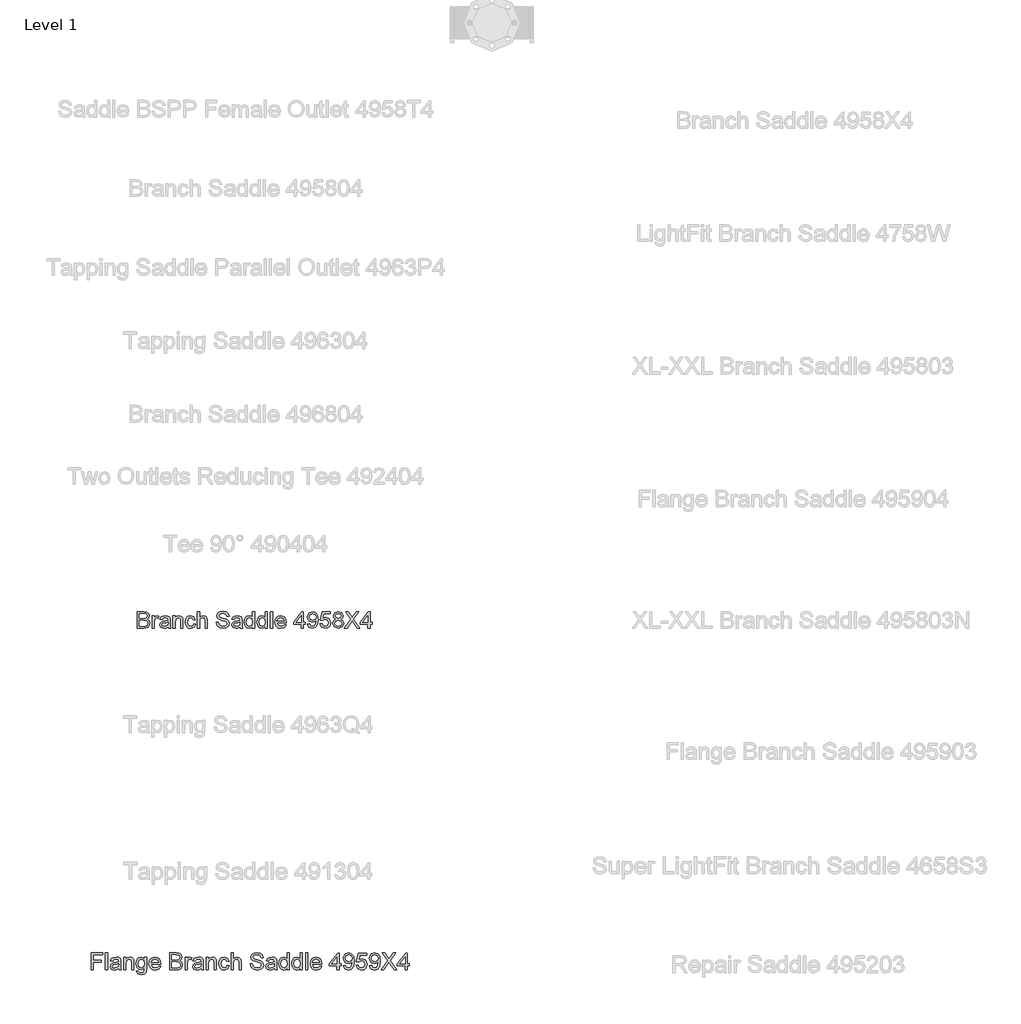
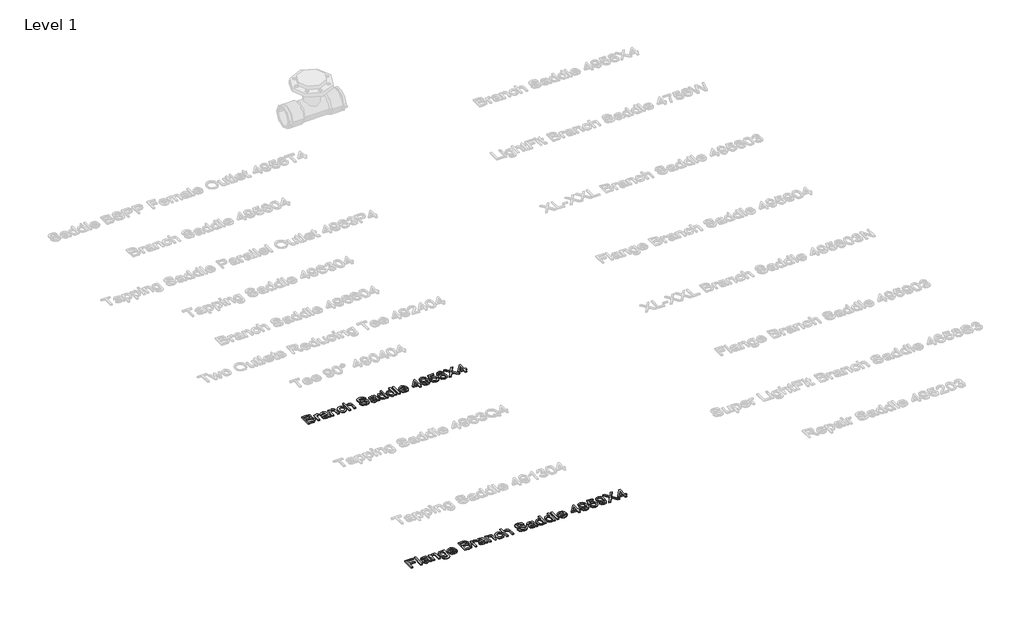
# One storey, part 4 of 41: 2 proxies.
"""IFC4 building model written with IfcOpenShell, lengths in millimetres."""

from ifc_helpers import new_model, si_unit, origin, origin_with_axes, place, context, project, spatial, polyline, outline, extrude, element, save

model = new_model("IFC4")

# Units and contexts
model_context = context("Model", 3, world=origin())
ifc_project = project(units=[si_unit("LENGTHUNIT", "METRE", prefix="MILLI")], contexts=[model_context])

# Site, building, storey
site = spatial("IfcSite", under=ifc_project)
building = spatial("IfcBuilding", under=site)
storey = spatial("IfcBuildingStorey", under=building, Name="Level 1", Elevation=0.0)

# Proxies
placement = place(None, origin())
element("IfcBuildingElementProxy", 1, Name="100 mm Arial", ObjectType="100 mm Arial", at=placement, inside=storey, context=model_context, shape_type="SweptSolid", body=[
    extrude(outline(polyline([(6675.9808456, 2827.5779735), (6675.9808456, 2886.6548966), (6698.5241149, 2886.6548966), (6709.5649803, 2884.9169158), (6716.084211, 2879.5731658), (6718.4423841, 2872.0154735), (6716.459211, 2865.1140312), (6710.4664226, 2859.8856658), (6717.7428649, 2854.3760505), (6720.288538, 2845.1885505), (6718.5505572, 2837.2486466), (6714.2452687, 2831.5948005), (6707.819788, 2828.5948005), (6698.351038, 2827.5779735), (6675.9808456, 2827.5779735)]), holes=[polyline([(6683.365461, 2834.9625889), (6698.5096918, 2834.9625889), (6703.990461, 2835.2510505), (6708.6274803, 2836.8592235), (6711.6995956, 2840.1404735), (6712.9039226, 2845.1164351), (6711.490461, 2850.8568197), (6706.9111341, 2854.2823005), (6697.788538, 2855.2702812), (6683.365461, 2855.2702812), (6683.365461, 2834.9625889)]), polyline([(6683.365461, 2862.6548966), (6696.851038, 2862.6548966), (6704.726038, 2863.289512), (6709.4640187, 2866.0226851), (6711.0577687, 2870.8327812), (6709.5721918, 2875.6500889), (6705.3173841, 2878.4986466), (6695.8269995, 2879.2702812), (6683.365461, 2879.2702812), (6683.365461, 2862.6548966)])]), origin_with_axes(), (0.0, 0.0, 1.0), 5.0),
    extrude(outline(polyline([(6729.5193072, 2827.5779735), (6729.5193072, 2870.9625889), (6735.9808456, 2870.9625889), (6735.9808456, 2864.5443197), (6740.5673841, 2870.4577812), (6745.1827687, 2871.8856658), (6752.5962303, 2869.6068197), (6750.1298841, 2862.9866274), (6744.9375764, 2864.5010505), (6740.7620956, 2863.0443197), (6738.101038, 2859.0058582), (6736.9039226, 2850.3808582), (6736.9039226, 2827.5779735), (6729.5193072, 2827.5779735)])), origin_with_axes(), (0.0, 0.0, 1.0), 5.0),
    extrude(outline(polyline([(6784.9039226, 2833.1164351), (6777.7428649, 2828.1116274), (6769.8318072, 2826.6548966), (6759.1082495, 2830.1597043), (6755.365461, 2839.1164351), (6756.7789226, 2844.9577812), (6760.4928649, 2849.1981658), (6765.663538, 2851.6212428), (6772.052961, 2852.7318197), (6784.8606533, 2855.2702812), (6784.9039226, 2856.914512), (6782.8702687, 2862.3664351), (6774.7068072, 2864.5010505), (6767.2356533, 2863.0803774), (6763.6731533, 2858.039512), (6756.288538, 2858.9625889), (6759.4832495, 2866.1741274), (6765.9159418, 2870.4000889), (6775.6587303, 2871.8856658), (6784.6082495, 2870.5731658), (6789.663538, 2867.2774928), (6791.927961, 2862.2654735), (6792.288538, 2855.8039351), (6792.288538, 2846.6164351), (6792.663538, 2833.7871082), (6794.1346918, 2827.5779735), (6786.7500764, 2827.5779735), (6784.9039226, 2833.1164351)]), holes=[polyline([(6784.9039226, 2847.8856658), (6772.990461, 2845.6212428), (6766.6370956, 2844.4241274), (6763.7596918, 2842.477012), (6762.7500764, 2839.6356658), (6764.9495956, 2835.6404735), (6771.4039226, 2834.039512), (6778.8750764, 2835.8063389), (6783.6923841, 2840.0827812), (6784.8606533, 2845.7943197), (6784.9039226, 2847.8856658)])]), origin_with_axes(), (0.0, 0.0, 1.0), 5.0),
    extrude(outline(polyline([(6802.4423841, 2827.5779735), (6802.4423841, 2870.9625889), (6809.8269995, 2870.9625889), (6809.8269995, 2864.9048966), (6815.4736341, 2870.1404735), (6823.1827687, 2871.8856658), (6830.1563264, 2870.4794158), (6834.9159418, 2866.7871082), (6837.1298841, 2861.3568197), (6837.5193072, 2854.2173966), (6837.5193072, 2827.5779735), (6830.1346918, 2827.5779735), (6830.1346918, 2853.2222043), (6829.2837303, 2859.7558582), (6826.2765187, 2863.2101851), (6821.2068072, 2864.5010505), (6813.194788, 2861.602012), (6809.8269995, 2850.5972043), (6809.8269995, 2827.5779735), (6802.4423841, 2827.5779735)])), origin_with_axes(), (0.0, 0.0, 1.0), 5.0),
    extrude(outline(polyline([(6875.365461, 2843.2702812), (6882.7500764, 2842.3472043), (6876.8221918, 2830.8159543), (6865.1106533, 2826.6548966), (6857.2554851, 2828.1062187), (6851.1130572, 2832.4601851), (6847.1485139, 2839.5256899), (6845.8269995, 2849.1116274), (6848.084211, 2861.3784543), (6854.9640187, 2869.2606658), (6865.0096918, 2871.8856658), (6876.2380572, 2868.2798966), (6881.8269995, 2858.039512), (6874.4423841, 2857.1164351), (6871.0169033, 2862.6476851), (6865.0673841, 2864.5010505), (6856.507288, 2860.852012), (6853.2116149, 2849.3135505), (6856.4351726, 2837.6669158), (6864.865461, 2834.039512), (6871.8245956, 2836.3039351), (6875.365461, 2843.2702812)])), origin_with_axes(), (0.0, 0.0, 1.0), 5.0),
    extrude(outline(polyline([(6889.2116149, 2827.5779735), (6889.2116149, 2886.6548966), (6896.5962303, 2886.6548966), (6896.5962303, 2864.9337428), (6902.3546437, 2870.1476851), (6909.4471918, 2871.8856658), (6917.740461, 2869.9890312), (6922.7741149, 2864.7462428), (6924.288538, 2855.039512), (6924.288538, 2827.5779735), (6916.9039226, 2827.5779735), (6916.9039226, 2854.2750889), (6914.552961, 2862.0635505), (6907.8894995, 2864.5010505), (6901.8390187, 2862.8568197), (6897.8005572, 2858.4000889), (6896.5962303, 2850.6260505), (6896.5962303, 2827.5779735), (6889.2116149, 2827.5779735)])), origin_with_axes(), (0.0, 0.0, 1.0), 5.0),
    extrude(outline(polyline([(6955.6731533, 2847.8856658), (6963.0577687, 2847.8856658), (6965.4375764, 2840.4938389), (6971.2500764, 2835.820762), (6980.1058456, 2834.039512), (6987.8221918, 2835.3880697), (6992.8053649, 2839.0948005), (6994.4423841, 2844.0491274), (6993.2164226, 2848.6573005), (6988.1971918, 2852.0106658), (6977.444788, 2854.8303774), (6965.8702687, 2858.4722043), (6959.5890187, 2863.9673966), (6957.5193072, 2871.3087428), (6960.0794033, 2879.6669158), (6967.5577687, 2885.5659543), (6978.5048841, 2887.5779735), (6990.1875764, 2885.4722043), (6997.976038, 2879.2847043), (7000.9039226, 2870.039512), (6993.5193072, 2870.039512), (6989.3366149, 2877.6260505), (6978.7933456, 2880.1933582), (6968.2212303, 2877.6548966), (6964.9039226, 2871.5250889), (6967.2548841, 2866.4048966), (6979.3125764, 2862.2798966), (6992.3798841, 2858.5731658), (6999.5265187, 2852.5875889), (7001.8269995, 2844.2366274), (6999.1803649, 2835.4024928), (6991.5649803, 2828.9553774), (6980.3943072, 2826.6548966), (6967.2044033, 2829.1356658), (6958.8606533, 2836.6068197), (6955.6731533, 2847.8856658)])), origin_with_axes(), (0.0, 0.0, 1.0), 5.0),
    extrude(outline(polyline([(7039.6731533, 2833.1164351), (7032.5120956, 2828.1116274), (7024.601038, 2826.6548966), (7013.8774803, 2830.1597043), (7010.1346918, 2839.1164351), (7011.5481533, 2844.9577812), (7015.2620956, 2849.1981658), (7020.4327687, 2851.6212428), (7026.8221918, 2852.7318197), (7039.6298841, 2855.2702812), (7039.6731533, 2856.914512), (7037.6394995, 2862.3664351), (7029.476038, 2864.5010505), (7022.0048841, 2863.0803774), (7018.4423841, 2858.039512), (7011.0577687, 2858.9625889), (7014.2524803, 2866.1741274), (7020.6851726, 2870.4000889), (7030.427961, 2871.8856658), (7039.3774803, 2870.5731658), (7044.4327687, 2867.2774928), (7046.6971918, 2862.2654735), (7047.0577687, 2855.8039351), (7047.0577687, 2846.6164351), (7047.4327687, 2833.7871082), (7048.9039226, 2827.5779735), (7041.5193072, 2827.5779735), (7039.6731533, 2833.1164351)]), holes=[polyline([(7039.6731533, 2847.8856658), (7027.7596918, 2845.6212428), (7021.4063264, 2844.4241274), (7018.5289226, 2842.477012), (7017.5193072, 2839.6356658), (7019.7188264, 2835.6404735), (7026.1731533, 2834.039512), (7033.6443072, 2835.8063389), (7038.4616149, 2840.0827812), (7039.6298841, 2845.7943197), (7039.6731533, 2847.8856658)])]), origin_with_axes(), (0.0, 0.0, 1.0), 5.0),
    extrude(outline(polyline([(7083.9808456, 2827.5779735), (7083.9808456, 2834.5443197), (7079.0950283, 2828.6272524), (7072.3414226, 2826.6548966), (7063.1971918, 2829.5106658), (7056.7356533, 2837.4794158), (7054.4423841, 2849.227012), (7056.5553649, 2860.9818197), (7062.8870956, 2869.0731658), (7072.3125764, 2871.8856658), (7079.1202687, 2869.8736466), (7083.9808456, 2864.6452812), (7083.9808456, 2886.6548966), (7091.365461, 2886.6548966), (7091.365461, 2827.5779735), (7083.9808456, 2827.5779735)]), holes=[polyline([(7061.8269995, 2849.2558582), (7065.1587303, 2837.8255697), (7073.0193072, 2834.039512), (7080.7861341, 2837.6524928), (7083.9808456, 2848.6933582), (7080.7284418, 2860.6789351), (7072.7164226, 2864.5010505), (7064.9423841, 2860.8303774), (7061.8269995, 2849.2558582)])]), origin_with_axes(), (0.0, 0.0, 1.0), 5.0),
    extrude(outline(polyline([(7129.2116149, 2827.5779735), (7129.2116149, 2834.5443197), (7124.3257976, 2828.6272524), (7117.5721918, 2826.6548966), (7108.427961, 2829.5106658), (7101.9664226, 2837.4794158), (7099.6731533, 2849.227012), (7101.7861341, 2860.9818197), (7108.1178649, 2869.0731658), (7117.5433456, 2871.8856658), (7124.351038, 2869.8736466), (7129.2116149, 2864.6452812), (7129.2116149, 2886.6548966), (7136.5962303, 2886.6548966), (7136.5962303, 2827.5779735), (7129.2116149, 2827.5779735)]), holes=[polyline([(7107.0577687, 2849.2558582), (7110.3894995, 2837.8255697), (7118.2500764, 2834.039512), (7126.0169033, 2837.6524928), (7129.2116149, 2848.6933582), (7125.959211, 2860.6789351), (7117.9471918, 2864.5010505), (7110.1731533, 2860.8303774), (7107.0577687, 2849.2558582)])]), origin_with_axes(), (0.0, 0.0, 1.0), 5.0),
    extrude(outline(polyline([(7147.6731533, 2827.5779735), (7147.6731533, 2886.6548966), (7155.0577687, 2886.6548966), (7155.0577687, 2827.5779735), (7147.6731533, 2827.5779735)])), origin_with_axes(), (0.0, 0.0, 1.0), 5.0),
    extrude(outline(polyline([(7196.5096918, 2840.5010505), (7203.7500764, 2839.5779735), (7196.9784418, 2830.0443197), (7184.365461, 2826.6548966), (7175.7007976, 2828.117036), (7169.0337303, 2832.5034543), (7164.7825283, 2839.5292957), (7163.365461, 2848.9097043), (7164.7969514, 2858.6056178), (7169.0914226, 2865.8568197), (7175.6683456, 2870.3784543), (7183.9471918, 2871.8856658), (7191.9682255, 2870.3820601), (7198.3774803, 2865.8712428), (7202.5800043, 2858.6344639), (7203.9808456, 2848.9529735), (7203.9375764, 2846.9625889), (7170.7500764, 2846.9625889), (7174.9976726, 2837.3712428), (7184.5096918, 2834.039512), (7191.7500764, 2835.5827812), (7196.5096918, 2840.5010505)]), holes=[polyline([(7170.7500764, 2854.3472043), (7196.5962303, 2854.3472043), (7193.6394995, 2861.039512), (7183.9183456, 2864.5010505), (7174.8245956, 2861.7390312), (7170.7500764, 2854.3472043)])]), origin_with_axes(), (0.0, 0.0, 1.0), 5.0),
    extrude(outline(polyline([(7256.5962303, 2827.5779735), (7256.5962303, 2841.4241274), (7229.8269995, 2841.4241274), (7229.8269995, 2848.8087428), (7258.4423841, 2885.7318197), (7263.9808456, 2885.7318197), (7263.9808456, 2848.8087428), (7271.365461, 2848.8087428), (7271.365461, 2841.4241274), (7263.9808456, 2841.4241274), (7263.9808456, 2827.5779735), (7256.5962303, 2827.5779735)]), holes=[polyline([(7256.5962303, 2848.8087428), (7256.5962303, 2871.6260505), (7238.913538, 2848.8087428), (7256.5962303, 2848.8087428)])]), origin_with_axes(), (0.0, 0.0, 1.0), 5.0),
    extrude(outline(polyline([(7278.7500764, 2842.3472043), (7286.1346918, 2843.2702812), (7289.4519995, 2836.2246082), (7295.740461, 2834.039512), (7301.7188264, 2835.445762), (7305.771711, 2839.2029735), (7308.1875764, 2845.6212428), (7309.2548841, 2854.1885505), (7303.3053649, 2850.0347043), (7295.2068072, 2847.8856658), (7282.8678649, 2853.1356658), (7277.8269995, 2866.9673966), (7283.1130572, 2881.2462428), (7296.3606533, 2886.6548966), (7306.882288, 2883.5683582), (7314.1226726, 2874.7702812), (7316.5962303, 2858.2414351), (7314.1298841, 2840.3063389), (7306.7957495, 2830.1452812), (7295.3943072, 2826.6548966), (7284.0433456, 2830.7726851), (7278.7500764, 2842.3472043)]), holes=[polyline([(7309.2116149, 2867.1404735), (7306.0241149, 2875.9962428), (7297.5577687, 2879.2702812), (7288.6731533, 2875.7438389), (7285.2116149, 2866.6068197), (7288.4856533, 2858.4217235), (7297.3558456, 2855.2702812), (7305.8726726, 2858.4217235), (7309.2116149, 2867.1404735)])]), origin_with_axes(), (0.0, 0.0, 1.0), 5.0),
    extrude(outline(polyline([(7323.0577687, 2843.2702812), (7330.4423841, 2844.1933582), (7334.163538, 2836.5851851), (7341.8798841, 2834.039512), (7351.1394995, 2837.5803774), (7354.4423841, 2846.977012), (7351.3486341, 2855.7462428), (7341.9952687, 2858.9625889), (7335.5120956, 2857.6789351), (7331.365461, 2854.3472043), (7323.9808456, 2855.2702812), (7330.4423841, 2885.7318197), (7359.0577687, 2885.7318197), (7359.0577687, 2878.3472043), (7336.413538, 2878.3472043), (7333.2548841, 2862.0779735), (7344.0577687, 2866.3472043), (7356.6851726, 2861.0539351), (7361.8269995, 2847.4385505), (7357.1971918, 2833.7366274), (7350.5481533, 2828.4253293), (7341.851038, 2826.6548966), (7328.819788, 2831.2053774), (7323.0577687, 2843.2702812)])), origin_with_axes(), (0.0, 0.0, 1.0), 5.0),
    extrude(outline(polyline([(7379.0481533, 2860.1164351), (7372.319788, 2864.7029735), (7370.1346918, 2871.8423966), (7374.8943072, 2882.3856658), (7387.5721918, 2886.6548966), (7400.365461, 2882.2847043), (7405.2116149, 2871.6404735), (7403.0553649, 2864.6813389), (7396.5144995, 2860.1164351), (7404.3678649, 2854.3255697), (7407.0577687, 2844.7702812), (7401.7212303, 2831.8760505), (7387.6731533, 2826.6548966), (7373.6250764, 2831.8976851), (7368.288538, 2844.9722043), (7371.0866149, 2854.7510505), (7379.0481533, 2860.1164351)]), holes=[polyline([(7377.5193072, 2871.6260505), (7380.1370956, 2865.8279735), (7387.7596918, 2863.5779735), (7395.2308456, 2865.8135505), (7397.8269995, 2871.2943197), (7395.1443072, 2876.9698005), (7387.6731533, 2879.2702812), (7380.1803649, 2877.0202812), (7377.5193072, 2871.6260505)]), polyline([(7375.6731533, 2845.2318197), (7376.9063264, 2839.6717235), (7381.2693072, 2835.5106658), (7387.7308456, 2834.039512), (7396.5289226, 2837.133262), (7399.6731533, 2845.0010505), (7396.427961, 2853.0202812), (7387.4856533, 2856.1933582), (7378.7957495, 2853.0635505), (7375.6731533, 2845.2318197)])]), origin_with_axes(), (0.0, 0.0, 1.0), 5.0),
    extrude(outline(polyline([(7409.8269995, 2827.5779735), (7432.601038, 2859.7702812), (7413.5193072, 2886.6548966), (7422.3750764, 2886.6548966), (7433.1202687, 2871.5250889), (7436.740461, 2865.6260505), (7440.9808456, 2871.6260505), (7451.6106533, 2886.6548966), (7460.5962303, 2886.6548966), (7441.5144995, 2859.6837428), (7464.288538, 2827.5779735), (7455.4327687, 2827.5779735), (7440.2596918, 2848.9818197), (7437.101038, 2853.4241274), (7433.6250764, 2848.5491274), (7418.8125764, 2827.5779735), (7409.8269995, 2827.5779735)])), origin_with_axes(), (0.0, 0.0, 1.0), 5.0),
    extrude(outline(polyline([(7492.9039226, 2827.5779735), (7492.9039226, 2841.4241274), (7466.1346918, 2841.4241274), (7466.1346918, 2848.8087428), (7494.7500764, 2885.7318197), (7500.288538, 2885.7318197), (7500.288538, 2848.8087428), (7507.6731533, 2848.8087428), (7507.6731533, 2841.4241274), (7500.288538, 2841.4241274), (7500.288538, 2827.5779735), (7492.9039226, 2827.5779735)]), holes=[polyline([(7492.9039226, 2848.8087428), (7492.9039226, 2871.6260505), (7475.2212303, 2848.8087428), (7492.9039226, 2848.8087428)])]), origin_with_axes(), (0.0, 0.0, 1.0), 5.0),
])
element("IfcBuildingElementProxy", 2, Name="100 mm Arial", ObjectType="100 mm Arial", at=placement, inside=storey, context=model_context, shape_type="SweptSolid", body=[
    extrude(outline(polyline([(6513.0348295, 1617.5779735), (6513.0348295, 1677.8517596), (6553.5312795, 1677.8517596), (6553.5312795, 1670.3175364), (6520.5690527, 1670.3175364), (6520.5690527, 1652.4237561), (6548.82239, 1652.4237561), (6548.82239, 1644.8895329), (6520.5690527, 1644.8895329), (6520.5690527, 1617.5779735), (6513.0348295, 1617.5779735)])), origin_with_axes(), (0.0, 0.0, 1.0), 5.0),
    extrude(outline(polyline([(6562.9490586, 1617.5779735), (6562.9490586, 1677.8517596), (6570.4832818, 1677.8517596), (6570.4832818, 1617.5779735), (6562.9490586, 1617.5779735)])), origin_with_axes(), (0.0, 0.0, 1.0), 5.0),
    extrude(outline(polyline([(6610.037954, 1623.228641), (6602.7318175, 1618.1224389), (6594.6604866, 1616.6361956), (6583.719676, 1620.2120086), (6579.9010609, 1629.3501974), (6581.3431583, 1635.3098857), (6585.1323429, 1639.636178), (6590.4077707, 1642.108345), (6596.9266396, 1643.2414215), (6609.9938081, 1645.8313108), (6610.037954, 1647.5088527), (6607.9630995, 1653.0712284), (6599.6342511, 1655.2490898), (6592.0117362, 1653.7996348), (6588.3770621, 1648.6566445), (6580.8428388, 1649.5984224), (6584.1022733, 1656.9560623), (6590.6652881, 1661.2676393), (6600.6054596, 1662.7833131), (6609.7362907, 1661.4442226), (6614.8939963, 1658.0817812), (6617.2042952, 1652.9682215), (6617.5721772, 1646.3757761), (6617.5721772, 1637.0021429), (6617.9547745, 1623.9129015), (6619.455733, 1617.5779735), (6611.9215098, 1617.5779735), (6610.037954, 1623.228641)]), holes=[polyline([(6610.037954, 1638.2970875), (6597.8831328, 1635.9867886), (6591.4010521, 1634.7654204), (6588.4653538, 1632.7788576), (6587.4352842, 1629.8799475), (6589.6793643, 1625.803815), (6596.2644521, 1624.1704189), (6603.886967, 1625.9730407), (6608.8018704, 1630.3361211), (6609.9938081, 1636.1633719), (6610.037954, 1638.2970875)])]), origin_with_axes(), (0.0, 0.0, 1.0), 5.0),
    extrude(outline(polyline([(6627.9317342, 1617.5779735), (6627.9317342, 1661.8415352), (6635.4659575, 1661.8415352), (6635.4659575, 1655.6611177), (6641.2269895, 1661.0027643), (6649.0923066, 1662.7833131), (6656.2071443, 1661.3485733), (6661.0631867, 1657.5814617), (6663.3219821, 1652.0411588), (6663.7192947, 1644.7570953), (6663.7192947, 1617.5779735), (6656.1850714, 1617.5779735), (6656.1850714, 1643.741741), (6655.3168699, 1650.4077628), (6652.2487341, 1653.9320723), (6647.0763132, 1655.2490898), (6638.9019753, 1652.2913186), (6635.4659575, 1641.0635601), (6635.4659575, 1617.5779735), (6627.9317342, 1617.5779735)])), origin_with_axes(), (0.0, 0.0, 1.0), 5.0),
    extrude(outline(polyline([(6672.1952959, 1613.8108619), (6679.7295191, 1612.869084), (6682.1722556, 1608.8959585), (6689.4857496, 1607.2184166), (6697.1965562, 1609.1166877), (6700.8753762, 1614.4436189), (6701.390411, 1623.228641), (6689.6181871, 1617.5779735), (6681.8503588, 1619.2224061), (6676.0580568, 1624.1557036), (6671.2535179, 1639.9304836), (6673.4093064, 1651.6070581), (6679.6485851, 1659.8696877), (6689.2503052, 1662.7833131), (6695.9715092, 1661.1352018), (6701.390411, 1656.1908678), (6701.390411, 1661.8415352), (6708.9246343, 1661.8415352), (6708.9246343, 1623.6259535), (6706.8644951, 1608.9916078), (6700.3382685, 1602.1857909), (6689.3385968, 1599.6841933), (6676.8085361, 1603.2085028), (6672.1952959, 1613.8108619)]), holes=[polyline([(6678.7877412, 1640.4455184), (6682.0030298, 1628.7836591), (6690.0743608, 1625.1121968), (6698.1309765, 1628.7615862), (6701.390411, 1640.2247892), (6698.0353272, 1651.4599053), (6689.9566386, 1655.2490898), (6682.0471757, 1651.5187664), (6678.7877412, 1640.4455184)])]), origin_with_axes(), (0.0, 0.0, 1.0), 5.0),
    extrude(outline(polyline([(6751.2163484, 1630.7628642), (6758.6034189, 1629.8210863), (6751.694595, 1620.0942864), (6738.8260828, 1616.6361956), (6729.9858785, 1618.1279571), (6723.1837404, 1622.6032416), (6718.8464117, 1629.7714223), (6717.4006354, 1639.3418724), (6718.8611269, 1649.2342192), (6723.2426015, 1656.6323261), (6729.9527691, 1661.2455664), (6738.3993397, 1662.7833131), (6746.5828747, 1661.2492452), (6753.1219772, 1656.6470414), (6757.4096418, 1649.2636498), (6758.8388634, 1639.3860182), (6758.7947175, 1637.3553096), (6724.9348587, 1637.3553096), (6729.2685086, 1627.5696485), (6738.9732356, 1624.1704189), (6746.3603061, 1625.7449538), (6751.2163484, 1630.7628642)]), holes=[polyline([(6724.9348587, 1644.8895329), (6751.3046401, 1644.8895329), (6748.2880077, 1651.7174227), (6738.3699091, 1655.2490898), (6729.0919252, 1652.4311138), (6724.9348587, 1644.8895329)])]), origin_with_axes(), (0.0, 0.0, 1.0), 5.0),
    extrude(outline(polyline([(6790.8593122, 1617.5779735), (6790.8593122, 1677.8517596), (6813.8592946, 1677.8517596), (6825.1238413, 1676.0785684), (6831.7751477, 1670.6265572), (6834.181096, 1662.9157506), (6832.157745, 1655.8744892), (6826.0435462, 1650.5402003), (6833.4674049, 1644.9189634), (6836.0646518, 1635.5453302), (6834.2914606, 1627.4445687), (6829.8989495, 1621.676179), (6823.3432924, 1618.6154008), (6813.6827112, 1617.5779735), (6790.8593122, 1617.5779735)]), holes=[polyline([(6798.3935355, 1625.1121968), (6813.8445793, 1625.1121968), (6819.4363856, 1625.4065024), (6824.1673481, 1627.0472561), (6827.3017027, 1630.3949823), (6828.5304285, 1635.4717538), (6827.0883311, 1641.3284351), (6822.4162298, 1644.8233141), (6813.1088153, 1645.8313108), (6798.3935355, 1645.8313108), (6798.3935355, 1625.1121968)]), polyline([(6798.3935355, 1653.365534), (6812.1523221, 1653.365534), (6820.1868649, 1654.0130063), (6825.0208343, 1656.8015519), (6826.6468727, 1661.7090977), (6825.1311989, 1666.6240011), (6820.7901913, 1669.5302689), (6811.1075372, 1670.3175364), (6798.3935355, 1670.3175364), (6798.3935355, 1653.365534)])]), origin_with_axes(), (0.0, 0.0, 1.0), 5.0),
    extrude(outline(polyline([(6845.4824309, 1617.5779735), (6845.4824309, 1661.8415352), (6852.0748762, 1661.8415352), (6852.0748762, 1655.2932357), (6856.7543352, 1661.3265004), (6861.4632247, 1662.7833131), (6869.0268786, 1660.4582989), (6866.5105657, 1653.7039855), (6861.213065, 1655.2490898), (6856.9529915, 1653.7628466), (6854.2380223, 1649.6425682), (6853.0166541, 1640.8428309), (6853.0166541, 1617.5779735), (6845.4824309, 1617.5779735)])), origin_with_axes(), (0.0, 0.0, 1.0), 5.0),
    extrude(outline(polyline([(6901.9891053, 1623.228641), (6894.6829689, 1618.1224389), (6886.6116379, 1616.6361956), (6875.6708274, 1620.2120086), (6871.8522123, 1629.3501974), (6873.2943097, 1635.3098857), (6877.0834942, 1639.636178), (6882.3589221, 1642.108345), (6888.877791, 1643.2414215), (6901.9449595, 1645.8313108), (6901.9891053, 1647.5088527), (6899.9142509, 1653.0712284), (6891.5854025, 1655.2490898), (6883.9628876, 1653.7996348), (6880.3282134, 1648.6566445), (6872.7939902, 1649.5984224), (6876.0534247, 1656.9560623), (6882.6164395, 1661.2676393), (6892.556611, 1662.7833131), (6901.6874421, 1661.4442226), (6906.8451477, 1658.0817812), (6909.1554466, 1652.9682215), (6909.5233286, 1646.3757761), (6909.5233286, 1637.0021429), (6909.9059259, 1623.9129015), (6911.4068844, 1617.5779735), (6903.8726611, 1617.5779735), (6901.9891053, 1623.228641)]), holes=[polyline([(6901.9891053, 1638.2970875), (6889.8342842, 1635.9867886), (6883.3522034, 1634.7654204), (6880.4165051, 1632.7788576), (6879.3864355, 1629.8799475), (6881.6305157, 1625.803815), (6888.2156034, 1624.1704189), (6895.8381184, 1625.9730407), (6900.7530218, 1630.3361211), (6901.9449595, 1636.1633719), (6901.9891053, 1638.2970875)])]), origin_with_axes(), (0.0, 0.0, 1.0), 5.0),
    extrude(outline(polyline([(6919.8828856, 1617.5779735), (6919.8828856, 1661.8415352), (6927.4171088, 1661.8415352), (6927.4171088, 1655.6611177), (6933.1781409, 1661.0027643), (6941.0434579, 1662.7833131), (6948.1582957, 1661.3485733), (6953.0143381, 1657.5814617), (6955.2731335, 1652.0411588), (6955.6704461, 1644.7570953), (6955.6704461, 1617.5779735), (6948.1362228, 1617.5779735), (6948.1362228, 1643.741741), (6947.2680213, 1650.4077628), (6944.1998854, 1653.9320723), (6939.0274646, 1655.2490898), (6930.8531267, 1652.2913186), (6927.4171088, 1641.0635601), (6927.4171088, 1617.5779735), (6919.8828856, 1617.5779735)])), origin_with_axes(), (0.0, 0.0, 1.0), 5.0),
    extrude(outline(polyline([(6994.2833403, 1633.588198), (7001.8175635, 1632.6464201), (6995.7695835, 1620.8815539), (6983.8207763, 1616.6361956), (6975.8064671, 1618.1169207), (6969.5395973, 1622.5590958), (6965.4947347, 1629.7677435), (6964.1464472, 1639.5478863), (6966.4493885, 1652.0632318), (6973.468577, 1660.1051322), (6983.7177694, 1662.7833131), (6995.1736147, 1659.1044932), (7000.8757856, 1648.6566445), (6993.3415624, 1647.7148666), (6989.8466834, 1653.3581764), (6983.7766305, 1655.2490898), (6975.0431119, 1651.5261241), (6971.6806705, 1639.7539002), (6974.9695355, 1627.8713118), (6983.5706166, 1624.1704189), (6990.6707391, 1626.4807178), (6994.2833403, 1633.588198)])), origin_with_axes(), (0.0, 0.0, 1.0), 5.0),
    extrude(outline(polyline([(7008.4100089, 1617.5779735), (7008.4100089, 1677.8517596), (7015.9442321, 1677.8517596), (7015.9442321, 1655.6905482), (7021.8193076, 1661.0101219), (7029.0555465, 1662.7833131), (7037.5168323, 1660.8482538), (7042.652465, 1655.4992496), (7044.1975694, 1645.5958663), (7044.1975694, 1617.5779735), (7036.6633461, 1617.5779735), (7036.6633461, 1644.8159565), (7034.2647555, 1652.7622076), (7027.4662962, 1655.2490898), (7021.2932364, 1653.5715479), (7017.172958, 1649.0245265), (7015.9442321, 1641.0929907), (7015.9442321, 1617.5779735), (7008.4100089, 1617.5779735)])), origin_with_axes(), (0.0, 0.0, 1.0), 5.0),
    extrude(outline(polyline([(7076.2180182, 1638.2970875), (7083.7522415, 1638.2970875), (7086.1802627, 1630.7555066), (7092.1105204, 1625.987756), (7101.1457022, 1624.1704189), (7109.0183769, 1625.5462976), (7114.1025061, 1629.3281245), (7115.7726904, 1634.3828231), (7114.5218916, 1639.084355), (7109.4009742, 1642.5056575), (7098.4307331, 1645.3824947), (7086.6217211, 1649.0981029), (7080.2132167, 1654.7046245), (7078.1015741, 1662.1947019), (7080.7135362, 1670.7222066), (7088.3434088, 1676.740756), (7099.5123062, 1678.7935375), (7111.4316828, 1676.6451067), (7119.3779339, 1670.3322516), (7122.3651357, 1660.8997573), (7114.8309125, 1660.8997573), (7110.5634813, 1668.6399945), (7099.8066118, 1671.2593143), (7089.0203117, 1668.669425), (7085.6357973, 1662.4154311), (7088.0343879, 1657.1915068), (7100.3363618, 1652.9829368), (7113.6684053, 1649.2011098), (7120.9598265, 1643.0942687), (7123.3069136, 1634.5741217), (7120.6066598, 1625.5610128), (7112.836992, 1618.9832828), (7101.4400078, 1616.6361956), (7087.9828844, 1619.1672238), (7079.4700951, 1626.7897387), (7076.2180182, 1638.2970875)])), origin_with_axes(), (0.0, 0.0, 1.0), 5.0),
    extrude(outline(polyline([(7161.9198078, 1623.228641), (7154.6136714, 1618.1224389), (7146.5423404, 1616.6361956), (7135.6015299, 1620.2120086), (7131.7829148, 1629.3501974), (7133.2250122, 1635.3098857), (7137.0141968, 1639.636178), (7142.2896246, 1642.108345), (7148.8084935, 1643.2414215), (7161.875662, 1645.8313108), (7161.9198078, 1647.5088527), (7159.8449534, 1653.0712284), (7151.516105, 1655.2490898), (7143.8935901, 1653.7996348), (7140.258916, 1648.6566445), (7132.7246927, 1649.5984224), (7135.9841272, 1656.9560623), (7142.547142, 1661.2676393), (7152.4873135, 1662.7833131), (7161.6181446, 1661.4442226), (7166.7758502, 1658.0817812), (7169.0861491, 1652.9682215), (7169.4540311, 1646.3757761), (7169.4540311, 1637.0021429), (7169.8366284, 1623.9129015), (7171.3375869, 1617.5779735), (7163.8033637, 1617.5779735), (7161.9198078, 1623.228641)]), holes=[polyline([(7161.9198078, 1638.2970875), (7149.7649867, 1635.9867886), (7143.282906, 1634.7654204), (7140.3472076, 1632.7788576), (7139.3171381, 1629.8799475), (7141.5612182, 1625.803815), (7148.1463059, 1624.1704189), (7155.7688209, 1625.9730407), (7160.6837243, 1630.3361211), (7161.875662, 1636.1633719), (7161.9198078, 1638.2970875)])]), origin_with_axes(), (0.0, 0.0, 1.0), 5.0),
    extrude(outline(polyline([(7207.1251474, 1617.5779735), (7207.1251474, 1624.6854537), (7202.1403464, 1618.6485101), (7195.2499166, 1616.6361956), (7185.9204292, 1619.549821), (7179.3279838, 1627.6800131), (7176.9882544, 1639.6656085), (7179.1440428, 1651.6585616), (7185.6040507, 1659.9138335), (7195.220486, 1662.7833131), (7202.1660981, 1660.7305316), (7207.1251474, 1655.3962426), (7207.1251474, 1677.8517596), (7214.6593707, 1677.8517596), (7214.6593707, 1617.5779735), (7207.1251474, 1617.5779735)]), holes=[polyline([(7184.5224776, 1639.6950391), (7187.9217073, 1628.0331798), (7195.9415347, 1624.1704189), (7203.8657129, 1627.8565965), (7207.1251474, 1639.1211432), (7203.8068518, 1651.3495407), (7195.6325139, 1655.2490898), (7187.7009781, 1651.5040511), (7184.5224776, 1639.6950391)])]), origin_with_axes(), (0.0, 0.0, 1.0), 5.0),
    extrude(outline(polyline([(7253.2722649, 1617.5779735), (7253.2722649, 1624.6854537), (7248.2874638, 1618.6485101), (7241.3970341, 1616.6361956), (7232.0675467, 1619.549821), (7225.4751013, 1627.6800131), (7223.1353718, 1639.6656085), (7225.2911603, 1651.6585616), (7231.7511682, 1659.9138335), (7241.3676035, 1662.7833131), (7248.3132156, 1660.7305316), (7253.2722649, 1655.3962426), (7253.2722649, 1677.8517596), (7260.8064881, 1677.8517596), (7260.8064881, 1617.5779735), (7253.2722649, 1617.5779735)]), holes=[polyline([(7230.6695951, 1639.6950391), (7234.0688247, 1628.0331798), (7242.0886522, 1624.1704189), (7250.0128304, 1627.8565965), (7253.2722649, 1639.1211432), (7249.9539693, 1651.3495407), (7241.7796313, 1655.2490898), (7233.8480955, 1651.5040511), (7230.6695951, 1639.6950391)])]), origin_with_axes(), (0.0, 0.0, 1.0), 5.0),
    extrude(outline(polyline([(7272.107823, 1617.5779735), (7272.107823, 1677.8517596), (7279.6420463, 1677.8517596), (7279.6420463, 1617.5779735), (7272.107823, 1617.5779735)])), origin_with_axes(), (0.0, 0.0, 1.0), 5.0),
    extrude(outline(polyline([(7321.9337605, 1630.7628642), (7329.3208309, 1629.8210863), (7322.4120071, 1620.0942864), (7309.5434949, 1616.6361956), (7300.7032905, 1618.1279571), (7293.9011524, 1622.6032416), (7289.5638237, 1629.7714223), (7288.1180475, 1639.3418724), (7289.578539, 1649.2342192), (7293.9600135, 1656.6323261), (7300.6701811, 1661.2455664), (7309.1167517, 1662.7833131), (7317.3002867, 1661.2492452), (7323.8393892, 1656.6470414), (7328.1270538, 1649.2636498), (7329.5562754, 1639.3860182), (7329.5121296, 1637.3553096), (7295.6522707, 1637.3553096), (7299.9859206, 1627.5696485), (7309.6906477, 1624.1704189), (7317.0777181, 1625.7449538), (7321.9337605, 1630.7628642)]), holes=[polyline([(7295.6522707, 1644.8895329), (7322.0220521, 1644.8895329), (7319.0054198, 1651.7174227), (7309.0873212, 1655.2490898), (7299.8093373, 1652.4311138), (7295.6522707, 1644.8895329)])]), origin_with_axes(), (0.0, 0.0, 1.0), 5.0),
    extrude(outline(polyline([(7383.2376161, 1617.5779735), (7383.2376161, 1631.7046422), (7355.9260568, 1631.7046422), (7355.9260568, 1639.2388654), (7385.1211719, 1676.9099817), (7390.7718394, 1676.9099817), (7390.7718394, 1639.2388654), (7398.3060627, 1639.2388654), (7398.3060627, 1631.7046422), (7390.7718394, 1631.7046422), (7390.7718394, 1617.5779735), (7383.2376161, 1617.5779735)]), holes=[polyline([(7383.2376161, 1639.2388654), (7383.2376161, 1662.5184381), (7365.1966831, 1639.2388654), (7383.2376161, 1639.2388654)])]), origin_with_axes(), (0.0, 0.0, 1.0), 5.0),
    extrude(outline(polyline([(7405.8402859, 1632.6464201), (7413.3745092, 1633.588198), (7416.7590235, 1626.3997838), (7423.1748855, 1624.1704189), (7429.274369, 1625.6051587), (7433.4093626, 1629.4384891), (7435.874172, 1635.9867886), (7436.9631027, 1644.7276648), (7430.8930498, 1640.4896642), (7422.6304202, 1638.2970875), (7410.0414983, 1643.6534494), (7404.898508, 1657.7654027), (7410.2916581, 1672.3335297), (7423.8076426, 1677.8517596), (7434.5424392, 1674.7026898), (7441.9295096, 1665.7263691), (7444.4531801, 1648.8626584), (7441.9368673, 1630.564208), (7434.4541475, 1620.1972933), (7422.8217188, 1616.6361956), (7411.2407936, 1620.837408), (7405.8402859, 1632.6464201)]), holes=[polyline([(7436.9189569, 1657.9419861), (7433.66688, 1666.9771679), (7425.0290108, 1670.3175364), (7415.9643984, 1666.7196505), (7412.4327313, 1657.3975207), (7415.7730998, 1649.0465994), (7424.8229969, 1645.8313108), (7433.5123696, 1649.0465994), (7436.9189569, 1657.9419861)])]), origin_with_axes(), (0.0, 0.0, 1.0), 5.0),
    extrude(outline(polyline([(7451.0456255, 1633.588198), (7458.5798487, 1634.5299759), (7462.3763909, 1626.7676658), (7470.2490656, 1624.1704189), (7479.6962753, 1627.7830201), (7483.0660743, 1637.3700249), (7479.9096468, 1646.316915), (7470.3667879, 1649.5984224), (7463.7522696, 1648.2887625), (7459.5216267, 1644.8895329), (7451.9874034, 1645.8313108), (7458.5798487, 1676.9099817), (7487.7749639, 1676.9099817), (7487.7749639, 1669.3757585), (7464.6719746, 1669.3757585), (7461.4493283, 1652.7769228), (7472.4710729, 1657.1326457), (7485.3543004, 1651.732138), (7490.6002976, 1637.8409138), (7485.8766928, 1623.861398), (7479.0929488, 1618.4424962), (7470.2196351, 1616.6361956), (7456.9243798, 1621.2788664), (7451.0456255, 1633.588198)])), origin_with_axes(), (0.0, 0.0, 1.0), 5.0),
    extrude(outline(polyline([(7498.1345209, 1632.6464201), (7505.6687441, 1633.588198), (7509.0532585, 1626.3997838), (7515.4691205, 1624.1704189), (7521.568604, 1625.6051587), (7525.7035976, 1629.4384891), (7528.168407, 1635.9867886), (7529.2573377, 1644.7276648), (7523.1872847, 1640.4896642), (7514.9246551, 1638.2970875), (7502.3357333, 1643.6534494), (7497.192743, 1657.7654027), (7502.585893, 1672.3335297), (7516.1018775, 1677.8517596), (7526.8366741, 1674.7026898), (7534.2237446, 1665.7263691), (7536.7474151, 1648.8626584), (7534.2311022, 1630.564208), (7526.7483825, 1620.1972933), (7515.1159538, 1616.6361956), (7503.5350286, 1620.837408), (7498.1345209, 1632.6464201)]), holes=[polyline([(7529.2131918, 1657.9419861), (7525.961115, 1666.9771679), (7517.3232457, 1670.3175364), (7508.2586334, 1666.7196505), (7504.7269662, 1657.3975207), (7508.0673347, 1649.0465994), (7517.1172318, 1645.8313108), (7525.8066045, 1649.0465994), (7529.2131918, 1657.9419861)])]), origin_with_axes(), (0.0, 0.0, 1.0), 5.0),
    extrude(outline(polyline([(7539.5727488, 1617.5779735), (7562.8081756, 1650.4224781), (7543.3398604, 1677.8517596), (7552.3750422, 1677.8517596), (7563.3379257, 1662.4154311), (7567.0314609, 1656.3968817), (7571.3577532, 1662.5184381), (7582.2029144, 1677.8517596), (7591.3705337, 1677.8517596), (7571.9022185, 1650.3341864), (7595.1376454, 1617.5779735), (7586.1024636, 1617.5779735), (7570.6219892, 1639.4154488), (7567.3993429, 1643.947755), (7563.8529605, 1638.9739904), (7548.7403681, 1617.5779735), (7539.5727488, 1617.5779735)])), origin_with_axes(), (0.0, 0.0, 1.0), 5.0),
    extrude(outline(polyline([(7624.3327605, 1617.5779735), (7624.3327605, 1631.7046422), (7597.0212012, 1631.7046422), (7597.0212012, 1639.2388654), (7626.2163163, 1676.9099817), (7631.8669838, 1676.9099817), (7631.8669838, 1639.2388654), (7639.401207, 1639.2388654), (7639.401207, 1631.7046422), (7631.8669838, 1631.7046422), (7631.8669838, 1617.5779735), (7624.3327605, 1617.5779735)]), holes=[polyline([(7624.3327605, 1639.2388654), (7624.3327605, 1662.5184381), (7606.2918274, 1639.2388654), (7624.3327605, 1639.2388654)])]), origin_with_axes(), (0.0, 0.0, 1.0), 5.0),
])

save(model, "model.ifc")
